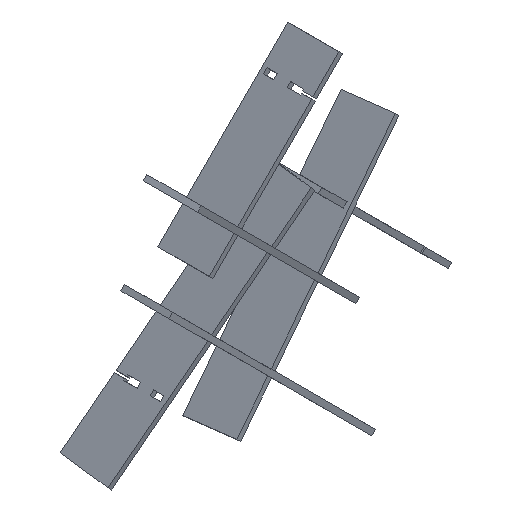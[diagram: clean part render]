
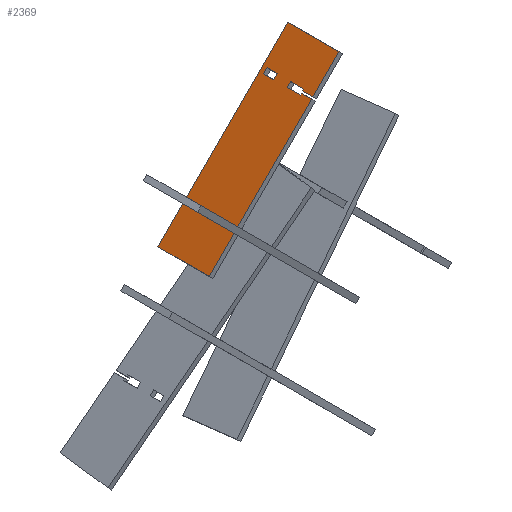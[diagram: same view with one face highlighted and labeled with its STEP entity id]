
A CAD part, isometric view. The second image highlights one B-rep face of the part: STEP entity #2369.
In plain terms, the highlighted planar face has unit normal (-0.707, 0, 0.707) as drawn and (0, 0, 1) by its records, which use the part's own axes.
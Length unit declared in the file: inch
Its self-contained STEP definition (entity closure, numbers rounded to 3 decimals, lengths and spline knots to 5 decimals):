
#59=FACE_BOUND('',#302,.T.);
#60=FACE_BOUND('',#303,.T.);
#175=FACE_OUTER_BOUND('',#301,.T.);
#301=EDGE_LOOP('',(#2087,#2088,#2089,#2090,#2091,#2092,#2093,#2094,#2095,
#2096,#2097,#2098,#2099,#2100,#2101,#2102,#2103,#2104,#2105,#2106));
#302=EDGE_LOOP('',(#2107,#2108,#2109,#2110));
#303=EDGE_LOOP('',(#2111,#2112,#2113,#2114));
#549=LINE('',#3634,#873);
#552=LINE('',#3640,#876);
#555=LINE('',#3646,#879);
#558=LINE('',#3650,#882);
#561=LINE('',#3658,#885);
#564=LINE('',#3664,#888);
#567=LINE('',#3670,#891);
#570=LINE('',#3674,#894);
#573=LINE('',#3682,#897);
#576=LINE('',#3688,#900);
#579=LINE('',#3694,#903);
#582=LINE('',#3700,#906);
#585=LINE('',#3706,#909);
#588=LINE('',#3712,#912);
#591=LINE('',#3718,#915);
#594=LINE('',#3724,#918);
#597=LINE('',#3730,#921);
#600=LINE('',#3736,#924);
#603=LINE('',#3742,#927);
#606=LINE('',#3748,#930);
#609=LINE('',#3754,#933);
#612=LINE('',#3760,#936);
#615=LINE('',#3766,#939);
#618=LINE('',#3772,#942);
#621=LINE('',#3778,#945);
#624=LINE('',#3784,#948);
#627=LINE('',#3790,#951);
#630=LINE('',#3794,#954);
#873=VECTOR('',#2987,0.3937);
#876=VECTOR('',#2992,0.3937);
#879=VECTOR('',#2997,0.3937);
#882=VECTOR('',#3002,0.3937);
#885=VECTOR('',#3007,0.3937);
#888=VECTOR('',#3012,0.3937);
#891=VECTOR('',#3017,0.3937);
#894=VECTOR('',#3022,0.3937);
#897=VECTOR('',#3027,0.3937);
#900=VECTOR('',#3032,0.3937);
#903=VECTOR('',#3037,0.3937);
#906=VECTOR('',#3042,0.3937);
#909=VECTOR('',#3047,0.3937);
#912=VECTOR('',#3052,0.3937);
#915=VECTOR('',#3057,0.3937);
#918=VECTOR('',#3062,0.3937);
#921=VECTOR('',#3067,0.3937);
#924=VECTOR('',#3072,0.3937);
#927=VECTOR('',#3077,0.3937);
#930=VECTOR('',#3082,0.3937);
#933=VECTOR('',#3087,0.3937);
#936=VECTOR('',#3092,0.3937);
#939=VECTOR('',#3097,0.3937);
#942=VECTOR('',#3102,0.3937);
#945=VECTOR('',#3107,0.3937);
#948=VECTOR('',#3112,0.3937);
#951=VECTOR('',#3117,0.3937);
#954=VECTOR('',#3122,0.3937);
#1117=VERTEX_POINT('',#3631);
#1118=VERTEX_POINT('',#3633);
#1120=VERTEX_POINT('',#3639);
#1122=VERTEX_POINT('',#3645);
#1125=VERTEX_POINT('',#3655);
#1126=VERTEX_POINT('',#3657);
#1128=VERTEX_POINT('',#3663);
#1130=VERTEX_POINT('',#3669);
#1133=VERTEX_POINT('',#3679);
#1134=VERTEX_POINT('',#3681);
#1136=VERTEX_POINT('',#3687);
#1138=VERTEX_POINT('',#3693);
#1140=VERTEX_POINT('',#3699);
#1142=VERTEX_POINT('',#3705);
#1144=VERTEX_POINT('',#3711);
#1146=VERTEX_POINT('',#3717);
#1148=VERTEX_POINT('',#3723);
#1150=VERTEX_POINT('',#3729);
#1152=VERTEX_POINT('',#3735);
#1154=VERTEX_POINT('',#3741);
#1156=VERTEX_POINT('',#3747);
#1158=VERTEX_POINT('',#3753);
#1160=VERTEX_POINT('',#3759);
#1162=VERTEX_POINT('',#3765);
#1164=VERTEX_POINT('',#3771);
#1166=VERTEX_POINT('',#3777);
#1168=VERTEX_POINT('',#3783);
#1170=VERTEX_POINT('',#3789);
#1413=EDGE_CURVE('',#1118,#1117,#549,.T.);
#1416=EDGE_CURVE('',#1120,#1118,#552,.T.);
#1419=EDGE_CURVE('',#1122,#1120,#555,.T.);
#1422=EDGE_CURVE('',#1117,#1122,#558,.T.);
#1425=EDGE_CURVE('',#1126,#1125,#561,.T.);
#1428=EDGE_CURVE('',#1128,#1126,#564,.T.);
#1431=EDGE_CURVE('',#1130,#1128,#567,.T.);
#1434=EDGE_CURVE('',#1125,#1130,#570,.T.);
#1437=EDGE_CURVE('',#1134,#1133,#573,.T.);
#1440=EDGE_CURVE('',#1136,#1134,#576,.T.);
#1443=EDGE_CURVE('',#1138,#1136,#579,.T.);
#1446=EDGE_CURVE('',#1140,#1138,#582,.T.);
#1449=EDGE_CURVE('',#1142,#1140,#585,.T.);
#1452=EDGE_CURVE('',#1144,#1142,#588,.T.);
#1455=EDGE_CURVE('',#1146,#1144,#591,.T.);
#1458=EDGE_CURVE('',#1148,#1146,#594,.T.);
#1461=EDGE_CURVE('',#1150,#1148,#597,.T.);
#1464=EDGE_CURVE('',#1152,#1150,#600,.T.);
#1467=EDGE_CURVE('',#1154,#1152,#603,.T.);
#1470=EDGE_CURVE('',#1156,#1154,#606,.T.);
#1473=EDGE_CURVE('',#1158,#1156,#609,.T.);
#1476=EDGE_CURVE('',#1160,#1158,#612,.T.);
#1479=EDGE_CURVE('',#1162,#1160,#615,.T.);
#1482=EDGE_CURVE('',#1164,#1162,#618,.T.);
#1485=EDGE_CURVE('',#1166,#1164,#621,.T.);
#1488=EDGE_CURVE('',#1168,#1166,#624,.T.);
#1491=EDGE_CURVE('',#1170,#1168,#627,.T.);
#1494=EDGE_CURVE('',#1133,#1170,#630,.T.);
#2087=ORIENTED_EDGE('',*,*,#1494,.T.);
#2088=ORIENTED_EDGE('',*,*,#1491,.T.);
#2089=ORIENTED_EDGE('',*,*,#1488,.T.);
#2090=ORIENTED_EDGE('',*,*,#1485,.T.);
#2091=ORIENTED_EDGE('',*,*,#1482,.T.);
#2092=ORIENTED_EDGE('',*,*,#1479,.T.);
#2093=ORIENTED_EDGE('',*,*,#1476,.T.);
#2094=ORIENTED_EDGE('',*,*,#1473,.T.);
#2095=ORIENTED_EDGE('',*,*,#1470,.T.);
#2096=ORIENTED_EDGE('',*,*,#1467,.T.);
#2097=ORIENTED_EDGE('',*,*,#1464,.T.);
#2098=ORIENTED_EDGE('',*,*,#1461,.T.);
#2099=ORIENTED_EDGE('',*,*,#1458,.T.);
#2100=ORIENTED_EDGE('',*,*,#1455,.T.);
#2101=ORIENTED_EDGE('',*,*,#1452,.T.);
#2102=ORIENTED_EDGE('',*,*,#1449,.T.);
#2103=ORIENTED_EDGE('',*,*,#1446,.T.);
#2104=ORIENTED_EDGE('',*,*,#1443,.T.);
#2105=ORIENTED_EDGE('',*,*,#1440,.T.);
#2106=ORIENTED_EDGE('',*,*,#1437,.T.);
#2107=ORIENTED_EDGE('',*,*,#1434,.T.);
#2108=ORIENTED_EDGE('',*,*,#1431,.T.);
#2109=ORIENTED_EDGE('',*,*,#1428,.T.);
#2110=ORIENTED_EDGE('',*,*,#1425,.T.);
#2111=ORIENTED_EDGE('',*,*,#1422,.T.);
#2112=ORIENTED_EDGE('',*,*,#1419,.T.);
#2113=ORIENTED_EDGE('',*,*,#1416,.T.);
#2114=ORIENTED_EDGE('',*,*,#1413,.T.);
#2255=PLANE('',#2559);
#2369=ADVANCED_FACE('',(#175,#59,#60),#2255,.T.);
#2559=AXIS2_PLACEMENT_3D('',#3795,#3123,#3124);
#2987=DIRECTION('',(0.,-1.,0.));
#2992=DIRECTION('',(1.,0.,0.));
#2997=DIRECTION('',(0.,1.,0.));
#3002=DIRECTION('',(-1.,0.,0.));
#3007=DIRECTION('',(0.,-1.,0.));
#3012=DIRECTION('',(1.,0.,0.));
#3017=DIRECTION('',(0.,1.,0.));
#3022=DIRECTION('',(-1.,0.,0.));
#3027=DIRECTION('',(1.,0.,0.));
#3032=DIRECTION('',(0.,1.,0.));
#3037=DIRECTION('',(-1.,0.,0.));
#3042=DIRECTION('',(0.,1.,0.));
#3047=DIRECTION('',(1.,0.,0.));
#3052=DIRECTION('',(0.,-1.,0.));
#3057=DIRECTION('',(-1.,0.,0.));
#3062=DIRECTION('',(0.,1.,0.));
#3067=DIRECTION('',(1.,0.,0.));
#3072=DIRECTION('',(0.,-1.,0.));
#3077=DIRECTION('',(-1.,0.,0.));
#3082=DIRECTION('',(0.,-1.,0.));
#3087=DIRECTION('',(1.,0.,0.));
#3092=DIRECTION('',(0.,1.,0.));
#3097=DIRECTION('',(-1.,0.,0.));
#3102=DIRECTION('',(0.,1.,0.));
#3107=DIRECTION('',(1.,0.,0.));
#3112=DIRECTION('',(0.,-1.,0.));
#3117=DIRECTION('',(-1.,0.,0.));
#3122=DIRECTION('',(0.,-1.,0.));
#3123=DIRECTION('center_axis',(0.,0.,1.));
#3124=DIRECTION('ref_axis',(1.,0.,0.));
#3631=CARTESIAN_POINT('',(3.73142,3.4,0.48));
#3633=CARTESIAN_POINT('',(3.73142,4.34,0.48));
#3634=CARTESIAN_POINT('',(3.73142,4.34,0.48));
#3639=CARTESIAN_POINT('',(3.27138,4.34,0.48));
#3640=CARTESIAN_POINT('',(3.27138,4.34,0.48));
#3645=CARTESIAN_POINT('',(3.27138,3.4,0.48));
#3646=CARTESIAN_POINT('',(3.27138,3.4,0.48));
#3650=CARTESIAN_POINT('',(3.73142,3.4,0.48));
#3655=CARTESIAN_POINT('',(13.72862,3.4,0.48));
#3657=CARTESIAN_POINT('',(13.72862,4.34,0.48));
#3658=CARTESIAN_POINT('',(13.72862,4.34,0.48));
#3663=CARTESIAN_POINT('',(13.26858,4.34,0.48));
#3664=CARTESIAN_POINT('',(13.26858,4.34,0.48));
#3669=CARTESIAN_POINT('',(13.26858,3.4,0.48));
#3670=CARTESIAN_POINT('',(13.26858,3.4,0.48));
#3674=CARTESIAN_POINT('',(13.72862,3.4,0.48));
#3679=CARTESIAN_POINT('',(3.73142,2.17002,0.48));
#3681=CARTESIAN_POINT('',(3.27138,2.17002,0.48));
#3682=CARTESIAN_POINT('',(3.27138,2.17002,0.48));
#3687=CARTESIAN_POINT('',(3.27138,0.94,0.48));
#3688=CARTESIAN_POINT('',(3.27138,0.94,0.48));
#3693=CARTESIAN_POINT('',(3.41138,0.94,0.48));
#3694=CARTESIAN_POINT('',(3.41138,0.94,0.48));
#3699=CARTESIAN_POINT('',(3.41138,0.,0.48));
#3700=CARTESIAN_POINT('',(3.41138,0.,0.48));
#3705=CARTESIAN_POINT('',(0.,0.,0.48));
#3706=CARTESIAN_POINT('',(0.,0.,0.48));
#3711=CARTESIAN_POINT('',(0.,4.75,0.48));
#3712=CARTESIAN_POINT('',(0.,4.75,0.48));
#3717=CARTESIAN_POINT('',(17.,4.75,0.48));
#3718=CARTESIAN_POINT('',(17.,4.75,0.48));
#3723=CARTESIAN_POINT('',(17.,0.,0.48));
#3724=CARTESIAN_POINT('',(17.,0.,0.48));
#3729=CARTESIAN_POINT('',(13.58862,0.,0.48));
#3730=CARTESIAN_POINT('',(13.58862,0.,0.48));
#3735=CARTESIAN_POINT('',(13.58862,0.94,0.48));
#3736=CARTESIAN_POINT('',(13.58862,0.94,0.48));
#3741=CARTESIAN_POINT('',(13.72862,0.94,0.48));
#3742=CARTESIAN_POINT('',(13.72862,0.94,0.48));
#3747=CARTESIAN_POINT('',(13.72862,2.17002,0.48));
#3748=CARTESIAN_POINT('',(13.72862,2.17002,0.48));
#3753=CARTESIAN_POINT('',(13.26858,2.17002,0.48));
#3754=CARTESIAN_POINT('',(13.26858,2.17002,0.48));
#3759=CARTESIAN_POINT('',(13.26858,0.94,0.48));
#3760=CARTESIAN_POINT('',(13.26858,0.94,0.48));
#3765=CARTESIAN_POINT('',(13.40858,0.94,0.48));
#3766=CARTESIAN_POINT('',(13.40858,0.94,0.48));
#3771=CARTESIAN_POINT('',(13.40858,0.,0.48));
#3772=CARTESIAN_POINT('',(13.40858,0.,0.48));
#3777=CARTESIAN_POINT('',(3.59142,0.,0.48));
#3778=CARTESIAN_POINT('',(3.59142,0.,0.48));
#3783=CARTESIAN_POINT('',(3.59142,0.94,0.48));
#3784=CARTESIAN_POINT('',(3.59142,0.94,0.48));
#3789=CARTESIAN_POINT('',(3.73142,0.94,0.48));
#3790=CARTESIAN_POINT('',(3.73142,0.94,0.48));
#3794=CARTESIAN_POINT('',(3.73142,2.17002,0.48));
#3795=CARTESIAN_POINT('Origin',(8.5,2.375,0.48));
